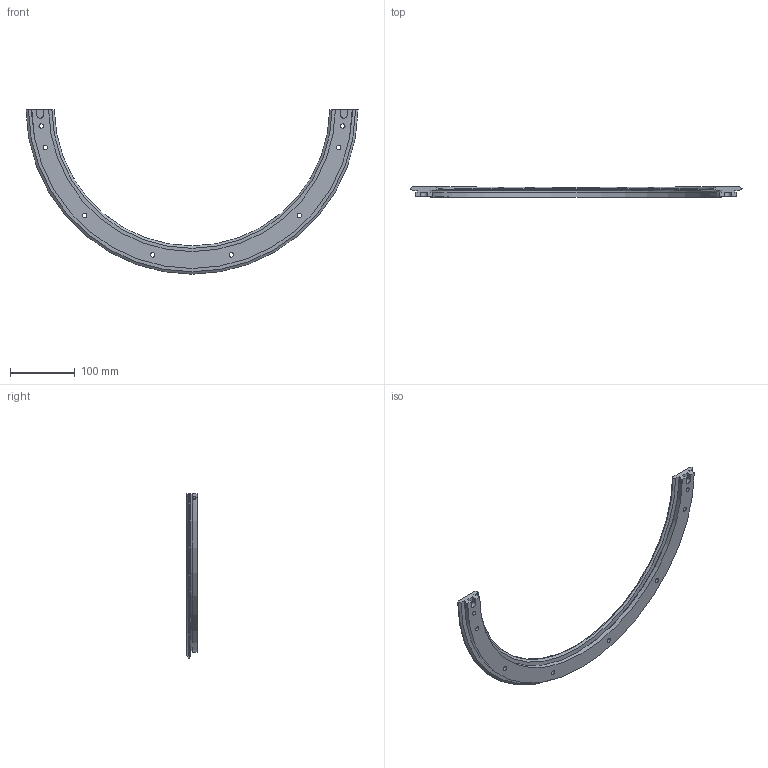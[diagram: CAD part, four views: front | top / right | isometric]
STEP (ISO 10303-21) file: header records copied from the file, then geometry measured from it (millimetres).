
FILE_DESCRIPTION( ( 'STEP AP203' ), '1' );
FILE_NAME( 'p:/temp/worker_32/temp/exporttempdir_3252_951_DexMY/format_0/TR44 468 R180.stp', '2021-09-17T07:40:52', ( 'License CC BY-ND 4.0' ), ( 'CADENAS' ), ' ', 'PARTsolutions', ' ' );
FILE_SCHEMA( ( 'CONFIG_CONTROL_DESIGN' ) );
Length unit declared in the file: millimetre
Products named in the file (1): _TR44 468 R180
Bounding box: 511.59 x 15.5 x 253.31 mm (x, y, z)
Volume: 337989.8 mm3; surface area: 92721.1 mm2
Topology: 1 solids, 1 shells, 86 faces, 205 edges, 137 vertices
Faces by surface type: plane 54, cylinder 26, cone 4, torus 2
Full cylindrical faces by diameter (mm): 5 x2, 6.8 x8, 11 x8
Entity records: 2666 total; most frequent: CARTESIAN_POINT 626, DIRECTION 408, ORIENTED_EDGE 372, EDGE_CURVE 186, AXIS2_PLACEMENT_3D 151, VERTEX_POINT 137, EDGE_LOOP 136, LINE 106
